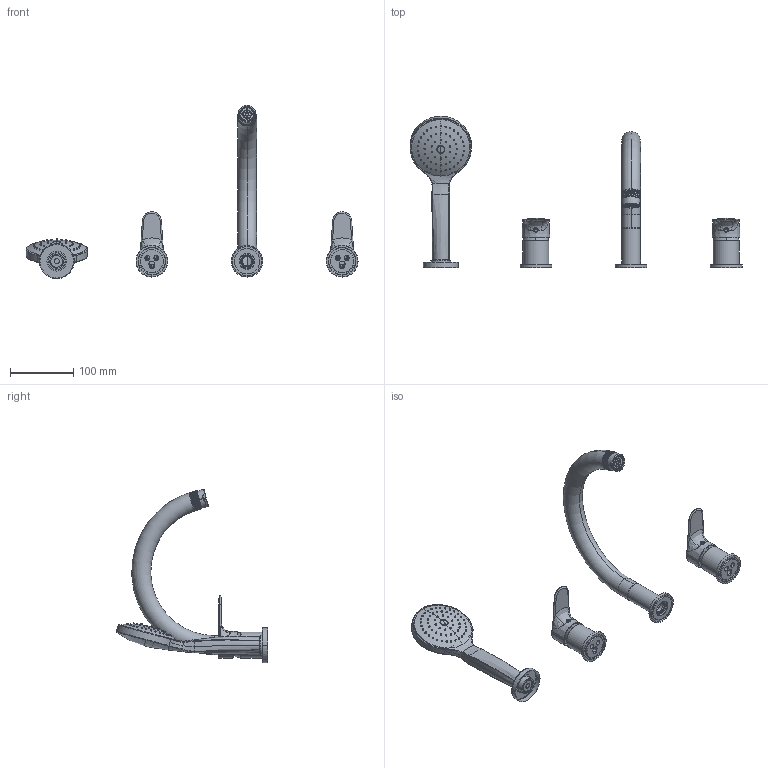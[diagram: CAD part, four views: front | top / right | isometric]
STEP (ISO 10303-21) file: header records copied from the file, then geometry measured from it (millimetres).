
FILE_DESCRIPTION((''),'2;1');
FILE_NAME('F3844N_ASM','2023-04-18T13:12:42',('samuelef'),(''),'CREO PARAMETRIC BY PTC INC, 2021184','CREO PARAMETRIC BY PTC INC, 2021184','');
FILE_SCHEMA(('CONFIG_CONTROL_DESIGN'));
Length unit declared in the file: millimetre
Products named in the file (18): 1921CRO_AF12; 4618TAM; 4360; 7384_BOTTONE_CROMATO_D_5_5; A1921D_SERIE_22_AF0_ASM; 7264CRO_PORTAC_BO_VA_EXTRA_REV2_AF3; 6911; 4935CRO_ROMPIGETTO_M28X1; A3234B-JCZ_AF3_ASM; 1921CRO_AF13; A1921B_SERIE_22_AF0_ASM; 4565_SUPPORTO_DOCCIA_01_AF6; 4565_RODONE_CROMATO_AF6; 4565_AF6_ASM; TERMINALE_CONICO_1_2_AF8; 6462SP_AF7_ASM; 7007_DOCCIA_MONOGETTO_SERIE_4_AF4; F3844N_ASM
Assembly tree (20 placements, depth 3):
  F3844N_ASM
    A1921D_SERIE_22_AF0_ASM
      1921CRO_AF12
      4618TAM
      4360
      7384_BOTTONE_CROMATO_D_5_5
    A3234B-JCZ_AF3_ASM
      7264CRO_PORTAC_BO_VA_EXTRA_REV2_AF3
      6911
      4935CRO_ROMPIGETTO_M28X1
    A1921B_SERIE_22_AF0_ASM
      1921CRO_AF13
      4618TAM
      4360
      7384_BOTTONE_CROMATO_D_5_5
    4565_AF6_ASM
      4565_SUPPORTO_DOCCIA_01_AF6
      4565_RODONE_CROMATO_AF6
    6462SP_AF7_ASM
      TERMINALE_CONICO_1_2_AF8
    7007_DOCCIA_MONOGETTO_SERIE_4_AF4
Bounding box: 523.5 x 238.88 x 273.29 mm (x, y, z)
Volume: 446688.5 mm3; surface area: 196382.6 mm2
Topology: 15 solids, 15 shells, 2649 faces, 6652 edges, 4233 vertices
Faces by surface type: plane 1375, bspline 407, cylinder 400, cone 246, sphere 117, torus 104
Entity records: 74305 total; most frequent: CARTESIAN_POINT 35397, ORIENTED_EDGE 8568, DIRECTION 6991, EDGE_CURVE 4284, VERTEX_POINT 2731, AXIS2_PLACEMENT_3D 2599, EDGE_LOOP 1981, VECTOR 1793
